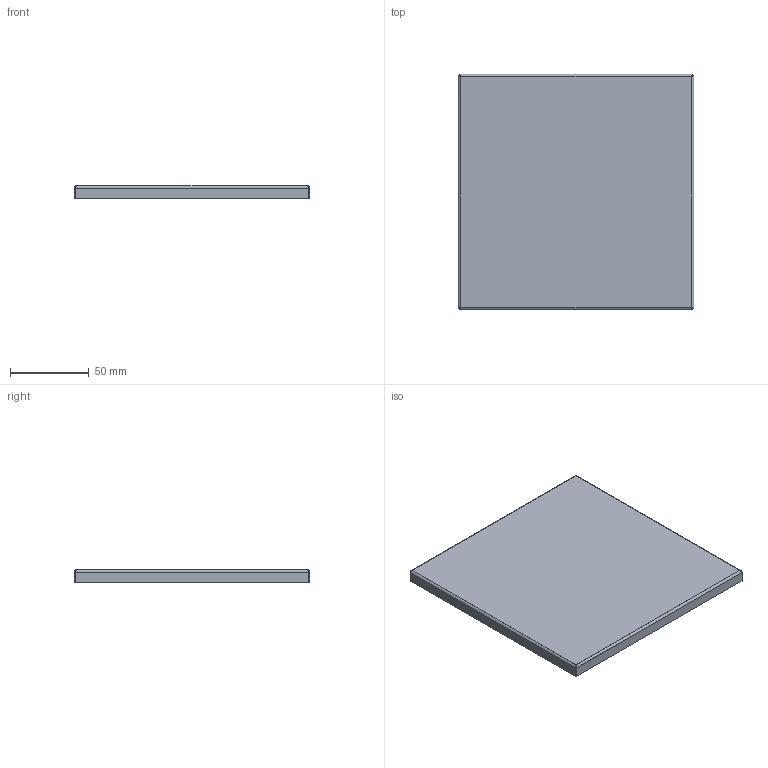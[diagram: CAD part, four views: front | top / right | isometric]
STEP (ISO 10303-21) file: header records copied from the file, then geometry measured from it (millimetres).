
FILE_DESCRIPTION(/* description */ ('-'),/* implementation_level */ '2;1');
FILE_NAME(/* name */ 'Decor_150x150.step',/* time_stamp */ '2025-01-27T18:45:30+01:00',/* author */ ('Jarosław Sierota'),/* organization */ ('JS'),/* preprocessor_version */ 'ST-DEVELOPER v20',/* originating_system */ 'Autodesk Inventor 2025',/* authorisation */ 'Jarosław Sierota');
FILE_SCHEMA (('AUTOMOTIVE_DESIGN { 1 0 10303 214 3 1 1 }'));
Length unit declared in the file: millimetre
Products named in the file (1): Decor_100x100
Bounding box: 150 x 150 x 8 mm (x, y, z)
Volume: 15151.4 mm3; surface area: 53541.9 mm2
Topology: 1 solids, 1 shells, 38 faces, 76 edges, 40 vertices
Faces by surface type: plane 22, bspline 8, cylinder 8
Entity records: 1399 total; most frequent: CARTESIAN_POINT 643, ORIENTED_EDGE 152, DIRECTION 122, EDGE_CURVE 76, LINE 60, VECTOR 60, VERTEX_POINT 40, FACE_OUTER_BOUND 38
